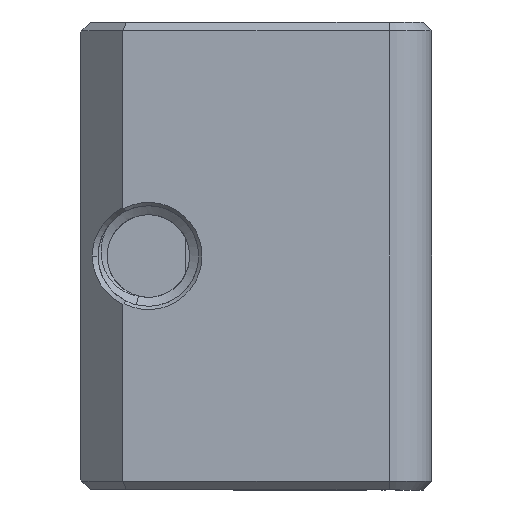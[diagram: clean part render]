
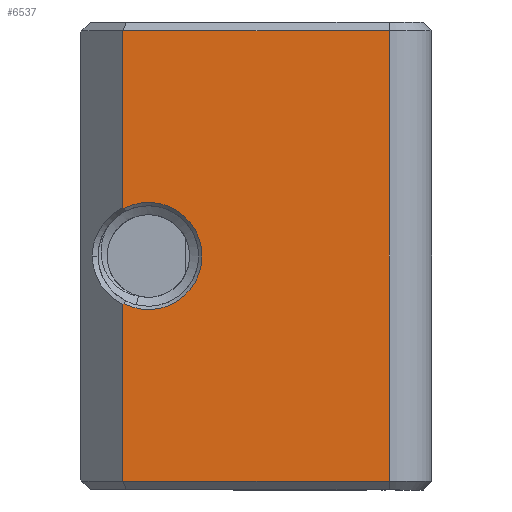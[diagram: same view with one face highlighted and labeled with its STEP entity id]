
A CAD part, left-side view. The second image highlights one B-rep face of the part: STEP entity #6537.
In plain terms, the highlighted planar face has unit normal (-1, 0, 0).
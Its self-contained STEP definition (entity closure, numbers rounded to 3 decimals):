
#169=DIRECTION('',(0.,-1.,0.));
#170=VECTOR('',#169,7.95);
#171=CARTESIAN_POINT('',(-20.32,21.566,6.731));
#172=LINE('',#171,#170);
#199=DIRECTION('',(0.,0.,-1.));
#200=VECTOR('',#199,13.462);
#201=CARTESIAN_POINT('',(-20.32,13.616,6.731));
#202=LINE('',#201,#200);
#2533=CARTESIAN_POINT('',(-20.32,21.523,-1.429));
#2534=CARTESIAN_POINT('',(-20.32,21.53,-1.432));
#2535=CARTESIAN_POINT('',(-20.32,21.544,
-1.436));
#2536=CARTESIAN_POINT('',(-20.32,21.559,
-1.441));
#2537=CARTESIAN_POINT('',(-20.32,21.566,
-1.443));
#2539=CARTESIAN_POINT('',(-20.32,21.566,1.443));
#2540=CARTESIAN_POINT('',(-20.32,21.559,1.441));
#2541=CARTESIAN_POINT('',(-20.32,21.544,1.436));
#2542=CARTESIAN_POINT('',(-20.32,21.53,1.432));
#2543=CARTESIAN_POINT('',(-20.32,21.523,1.429));
#2545=CARTESIAN_POINT('',(-20.32,20.804,0.));
#2546=DIRECTION('',(1.,0.,0.));
#2547=DIRECTION('',(0.,0.449,0.893));
#2548=AXIS2_PLACEMENT_3D('',#2545,#2546,#2547);
#2574=DIRECTION('',(0.,0.,-1.));
#2575=VECTOR('',#2574,5.288);
#2576=CARTESIAN_POINT('',(-20.32,21.566,6.731));
#2577=LINE('',#2576,#2575);
#2598=DIRECTION('',(0.,0.,-1.));
#2599=VECTOR('',#2598,5.288);
#2600=CARTESIAN_POINT('',(-20.32,21.566,
-1.443));
#2601=LINE('',#2600,#2599);
#2622=DIRECTION('',(0.,1.,0.));
#2623=VECTOR('',#2622,7.95);
#2624=CARTESIAN_POINT('',(-20.32,13.616,-6.731));
#2625=LINE('',#2624,#2623);
#2712=CARTESIAN_POINT('',(-20.32,13.616,6.731));
#2713=CARTESIAN_POINT('',(-20.32,13.616,-6.731));
#2714=VERTEX_POINT('',#2712);
#2715=VERTEX_POINT('',#2713);
#2716=CARTESIAN_POINT('',(-20.32,21.566,6.731));
#2717=VERTEX_POINT('',#2716);
#2718=CARTESIAN_POINT('',(-20.32,21.566,-6.731));
#2719=VERTEX_POINT('',#2718);
#2909=VERTEX_POINT('',#2533);
#2910=VERTEX_POINT('',#2537);
#2914=VERTEX_POINT('',#2539);
#2915=VERTEX_POINT('',#2543);
#6517=CARTESIAN_POINT('',(-20.32,16.74,-1.125));
#6518=DIRECTION('',(1.,0.,0.));
#6519=DIRECTION('',(0.,0.,-1.));
#6520=AXIS2_PLACEMENT_3D('',#6517,#6518,#6519);
#6521=PLANE('',#6520);
#6522=ORIENTED_EDGE('',*,*,#6505,.F.);
#6524=ORIENTED_EDGE('',*,*,#6523,.F.);
#6526=ORIENTED_EDGE('',*,*,#6525,.F.);
#6528=ORIENTED_EDGE('',*,*,#6527,.F.);
#6529=ORIENTED_EDGE('',*,*,#3265,.T.);
#6530=ORIENTED_EDGE('',*,*,#3298,.T.);
#6532=ORIENTED_EDGE('',*,*,#6531,.T.);
#6534=ORIENTED_EDGE('',*,*,#6533,.F.);
#6535=EDGE_LOOP('',(#6522,#6524,#6526,#6528,#6529,#6530,#6532,#6534));
#6536=FACE_OUTER_BOUND('',#6535,.F.);
#6537=ADVANCED_FACE('',(#6536),#6521,.F.);
#2538=B_SPLINE_CURVE_WITH_KNOTS('',3,(#2533,#2534,#2535,#2536,#2537),
.UNSPECIFIED.,.F.,.F.,(4,1,4),(0.,0.5,1.),.UNSPECIFIED.);
#2544=B_SPLINE_CURVE_WITH_KNOTS('',3,(#2539,#2540,#2541,#2542,#2543),
.UNSPECIFIED.,.F.,.F.,(4,1,4),(0.,0.5,1.),.UNSPECIFIED.);
#2549=CIRCLE('',#2548,1.6);
#3265=EDGE_CURVE('',#2717,#2714,#172,.T.);
#3298=EDGE_CURVE('',#2714,#2715,#202,.T.);
#6505=EDGE_CURVE('',#2909,#2910,#2538,.T.);
#6523=EDGE_CURVE('',#2915,#2909,#2549,.T.);
#6525=EDGE_CURVE('',#2914,#2915,#2544,.T.);
#6527=EDGE_CURVE('',#2717,#2914,#2577,.T.);
#6531=EDGE_CURVE('',#2715,#2719,#2625,.T.);
#6533=EDGE_CURVE('',#2910,#2719,#2601,.T.);
